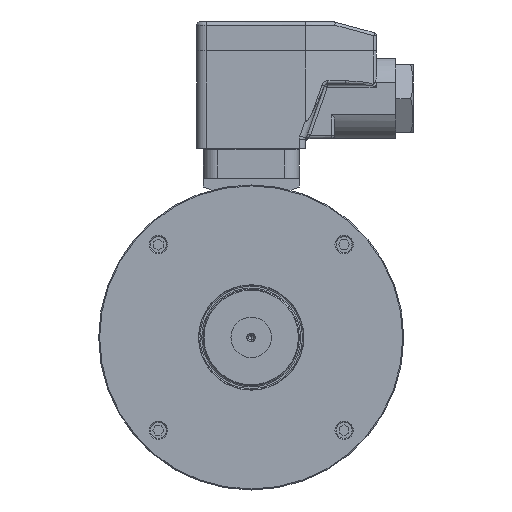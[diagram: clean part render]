
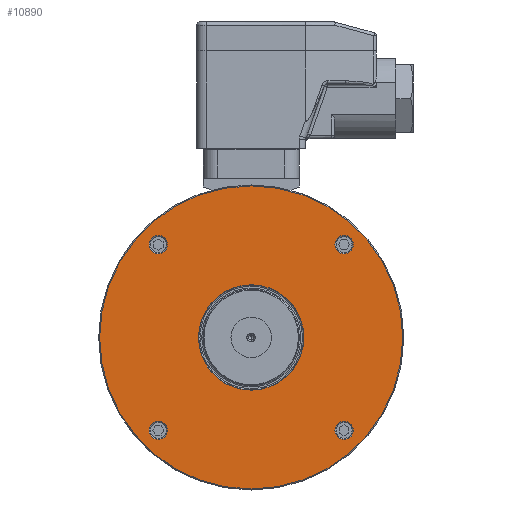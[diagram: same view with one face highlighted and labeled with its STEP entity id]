
A CAD part, left-side view. The second image highlights one B-rep face of the part: STEP entity #10890.
In plain terms, the highlighted planar face has unit normal (-1, 0, 0).
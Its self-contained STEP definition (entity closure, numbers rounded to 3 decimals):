
#700 = VERTEX_POINT ( 'NONE', #22153 ) ;
#702 = VERTEX_POINT ( 'NONE', #22161 ) ;
#719 = EDGE_CURVE ( 'NONE', #720, #731, #22230, .T. ) ;
#720 = VERTEX_POINT ( 'NONE', #22231 ) ;
#731 = VERTEX_POINT ( 'NONE', #22265 ) ;
#747 = VERTEX_POINT ( 'NONE', #22247 ) ;
#748 = EDGE_CURVE ( 'NONE', #1673, #1691, #22246, .T. ) ;
#757 = VERTEX_POINT ( 'NONE', #22276 ) ;
#774 = EDGE_CURVE ( 'NONE', #757, #747, #22302, .T. ) ;
#1673 = VERTEX_POINT ( 'NONE', #24440 ) ;
#1691 = VERTEX_POINT ( 'NONE', #24444 ) ;
#1800 = EDGE_CURVE ( 'NONE', #702, #700, #24728, .T. ) ;
#2096 = EDGE_CURVE ( 'NONE', #2182, #2163, #25205, .T. ) ;
#2113 = VERTEX_POINT ( 'NONE', #25253 ) ;
#2120 = EDGE_CURVE ( 'NONE', #2122, #2113, #25242, .T. ) ;
#2122 = VERTEX_POINT ( 'NONE', #25231 ) ;
#2163 = VERTEX_POINT ( 'NONE', #25337 ) ;
#2182 = VERTEX_POINT ( 'NONE', #25386 ) ;
#10853 = ORIENTED_EDGE ( 'NONE', *, *, #10865, .T. ) ;
#10856 = ORIENTED_EDGE ( 'NONE', *, *, #774, .T. ) ;
#10865 = EDGE_CURVE ( 'NONE', #700, #702, #17126, .T. ) ;
#10872 = ORIENTED_EDGE ( 'NONE', *, *, #748, .T. ) ;
#10874 = EDGE_LOOP ( 'NONE', ( #10875, #10882 ) ) ;
#10875 = ORIENTED_EDGE ( 'NONE', *, *, #2096, .F. ) ;
#10878 = ORIENTED_EDGE ( 'NONE', *, *, #10884, .T. ) ;
#10880 = EDGE_LOOP ( 'NONE', ( #10856, #10894 ) ) ;
#10881 = EDGE_CURVE ( 'NONE', #731, #720, #17172, .T. ) ;
#10882 = ORIENTED_EDGE ( 'NONE', *, *, #10903, .F. ) ;
#10883 = ORIENTED_EDGE ( 'NONE', *, *, #10891, .T. ) ;
#10884 = EDGE_CURVE ( 'NONE', #2113, #2122, #17226, .T. ) ;
#10885 = EDGE_LOOP ( 'NONE', ( #10931, #10878 ) ) ;
#10890 = ADVANCED_FACE ( 'NONE', ( #17198, #17252, #17209, #17204, #17217, #17197 ), #17192, .T. ) ;
#10891 = EDGE_CURVE ( 'NONE', #1691, #1673, #17250, .T. ) ;
#10893 = ORIENTED_EDGE ( 'NONE', *, *, #1800, .T. ) ;
#10894 = ORIENTED_EDGE ( 'NONE', *, *, #10895, .T. ) ;
#10895 = EDGE_CURVE ( 'NONE', #747, #757, #17240, .T. ) ;
#10898 = EDGE_LOOP ( 'NONE', ( #10893, #10853 ) ) ;
#10903 = EDGE_CURVE ( 'NONE', #2163, #2182, #17233, .T. ) ;
#10920 = EDGE_LOOP ( 'NONE', ( #10921, #10922 ) ) ;
#10921 = ORIENTED_EDGE ( 'NONE', *, *, #719, .T. ) ;
#10922 = ORIENTED_EDGE ( 'NONE', *, *, #10881, .T. ) ;
#10929 = EDGE_LOOP ( 'NONE', ( #10872, #10883 ) ) ;
#10931 = ORIENTED_EDGE ( 'NONE', *, *, #2120, .T. ) ;
#17126 = CIRCLE ( 'NONE', #17171, 2.85 ) ;
#17146 = CARTESIAN_POINT ( 'NONE',  ( -160., -28.921, 28.921 ) ) ;
#17169 = DIRECTION ( 'NONE',  ( 0., -1., 0. ) ) ;
#17170 = DIRECTION ( 'NONE',  ( 1., 0., 0. ) ) ;
#17171 = AXIS2_PLACEMENT_3D ( 'NONE', #17146, #17170, #17169 ) ;
#17172 = CIRCLE ( 'NONE', #17208, 2.85 ) ;
#17190 = CARTESIAN_POINT ( 'NONE',  ( -160., -28.921, -28.921 ) ) ;
#17192 = PLANE ( 'NONE',  #17245 ) ;
#17197 = FACE_BOUND ( 'NONE', #10885, .T. ) ;
#17198 = FACE_BOUND ( 'NONE', #10898, .T. ) ;
#17200 = DIRECTION ( 'NONE',  ( 0., 1., 0. ) ) ;
#17201 = DIRECTION ( 'NONE',  ( 1., 0., 0. ) ) ;
#17202 = CARTESIAN_POINT ( 'NONE',  ( -160., 0., 0. ) ) ;
#17203 = AXIS2_PLACEMENT_3D ( 'NONE', #17202, #17201, #17200 ) ;
#17204 = FACE_BOUND ( 'NONE', #10920, .T. ) ;
#17205 = DIRECTION ( 'NONE',  ( 0., -1., 0. ) ) ;
#17206 = DIRECTION ( 'NONE',  ( 1., 0., 0. ) ) ;
#17207 = CARTESIAN_POINT ( 'NONE',  ( -160., 28.921, 28.921 ) ) ;
#17208 = AXIS2_PLACEMENT_3D ( 'NONE', #17207, #17206, #17205 ) ;
#17209 = FACE_BOUND ( 'NONE', #10929, .T. ) ;
#17210 = DIRECTION ( 'NONE',  ( 0., -1., 0. ) ) ;
#17217 = FACE_OUTER_BOUND ( 'NONE', #10874, .T. ) ;
#17226 = CIRCLE ( 'NONE', #17203, 16.4 ) ;
#17230 = DIRECTION ( 'NONE',  ( 0., 1., 0. ) ) ;
#17231 = DIRECTION ( 'NONE',  ( 1., 0., 0. ) ) ;
#17232 = AXIS2_PLACEMENT_3D ( 'NONE', #17249, #17231, #17230 ) ;
#17233 = CIRCLE ( 'NONE', #17232, 47.2 ) ;
#17237 = AXIS2_PLACEMENT_3D ( 'NONE', #17190, #17248, #17210 ) ;
#17238 = DIRECTION ( 'NONE',  ( 0., -1., 0. ) ) ;
#17239 = DIRECTION ( 'NONE',  ( 1., 0., 0. ) ) ;
#17240 = CIRCLE ( 'NONE', #17237, 2.85 ) ;
#17242 = DIRECTION ( 'NONE',  ( 0., 1., 0. ) ) ;
#17243 = DIRECTION ( 'NONE',  ( -1., 0., 0. ) ) ;
#17244 = CARTESIAN_POINT ( 'NONE',  ( -160., 16.4, 0. ) ) ;
#17245 = AXIS2_PLACEMENT_3D ( 'NONE', #17244, #17243, #17242 ) ;
#17246 = CARTESIAN_POINT ( 'NONE',  ( -160., 28.921, -28.921 ) ) ;
#17247 = AXIS2_PLACEMENT_3D ( 'NONE', #17246, #17239, #17238 ) ;
#17248 = DIRECTION ( 'NONE',  ( 1., 0., 0. ) ) ;
#17249 = CARTESIAN_POINT ( 'NONE',  ( -160., 0., 0. ) ) ;
#17250 = CIRCLE ( 'NONE', #17247, 2.85 ) ;
#17252 = FACE_BOUND ( 'NONE', #10880, .T. ) ;
#22153 = CARTESIAN_POINT ( 'NONE',  ( -160., -28.921, 26.071 ) ) ;
#22161 = CARTESIAN_POINT ( 'NONE',  ( -160., -28.921, 31.771 ) ) ;
#22220 = DIRECTION ( 'NONE',  ( 0., -1., 0. ) ) ;
#22221 = DIRECTION ( 'NONE',  ( 1., 0., 0. ) ) ;
#22222 = CARTESIAN_POINT ( 'NONE',  ( -160., 28.921, 28.921 ) ) ;
#22223 = AXIS2_PLACEMENT_3D ( 'NONE', #22222, #22221, #22220 ) ;
#22230 = CIRCLE ( 'NONE', #22223, 2.85 ) ;
#22231 = CARTESIAN_POINT ( 'NONE',  ( -160., 28.921, 31.771 ) ) ;
#22246 = CIRCLE ( 'NONE', #22288, 2.85 ) ;
#22247 = CARTESIAN_POINT ( 'NONE',  ( -160., -28.921, -31.771 ) ) ;
#22263 = CARTESIAN_POINT ( 'NONE',  ( -160., 28.921, -28.921 ) ) ;
#22265 = CARTESIAN_POINT ( 'NONE',  ( -160., 28.921, 26.071 ) ) ;
#22276 = CARTESIAN_POINT ( 'NONE',  ( -160., -28.921, -26.071 ) ) ;
#22286 = DIRECTION ( 'NONE',  ( 0., -1., 0. ) ) ;
#22287 = DIRECTION ( 'NONE',  ( 1., 0., 0. ) ) ;
#22288 = AXIS2_PLACEMENT_3D ( 'NONE', #22263, #22287, #22286 ) ;
#22302 = CIRCLE ( 'NONE', #22303, 2.85 ) ;
#22303 = AXIS2_PLACEMENT_3D ( 'NONE', #22357, #22356, #22355 ) ;
#22355 = DIRECTION ( 'NONE',  ( 0., -1., 0. ) ) ;
#22356 = DIRECTION ( 'NONE',  ( 1., 0., 0. ) ) ;
#22357 = CARTESIAN_POINT ( 'NONE',  ( -160., -28.921, -28.921 ) ) ;
#24440 = CARTESIAN_POINT ( 'NONE',  ( -160., 28.921, -26.071 ) ) ;
#24444 = CARTESIAN_POINT ( 'NONE',  ( -160., 28.921, -31.771 ) ) ;
#24662 = CARTESIAN_POINT ( 'NONE',  ( -160., -28.921, 28.921 ) ) ;
#24721 = DIRECTION ( 'NONE',  ( 0., -1., 0. ) ) ;
#24722 = DIRECTION ( 'NONE',  ( 1., 0., 0. ) ) ;
#24725 = AXIS2_PLACEMENT_3D ( 'NONE', #24662, #24722, #24721 ) ;
#24728 = CIRCLE ( 'NONE', #24725, 2.85 ) ;
#25204 = CARTESIAN_POINT ( 'NONE',  ( -160., 0., 0. ) ) ;
#25205 = CIRCLE ( 'NONE', #25229, 47.2 ) ;
#25229 = AXIS2_PLACEMENT_3D ( 'NONE', #25204, #25256, #25255 ) ;
#25231 = CARTESIAN_POINT ( 'NONE',  ( -160., 16.4, 0. ) ) ;
#25242 = CIRCLE ( 'NONE', #25292, 16.4 ) ;
#25253 = CARTESIAN_POINT ( 'NONE',  ( -160., -16.4, 0. ) ) ;
#25255 = DIRECTION ( 'NONE',  ( 0., 1., 0. ) ) ;
#25256 = DIRECTION ( 'NONE',  ( 1., 0., 0. ) ) ;
#25289 = DIRECTION ( 'NONE',  ( 0., 1., 0. ) ) ;
#25290 = DIRECTION ( 'NONE',  ( 1., 0., 0. ) ) ;
#25291 = CARTESIAN_POINT ( 'NONE',  ( -160., 0., 0. ) ) ;
#25292 = AXIS2_PLACEMENT_3D ( 'NONE', #25291, #25290, #25289 ) ;
#25337 = CARTESIAN_POINT ( 'NONE',  ( -160., 47.2, 0. ) ) ;
#25386 = CARTESIAN_POINT ( 'NONE',  ( -160., -47.2, 0. ) ) ;
